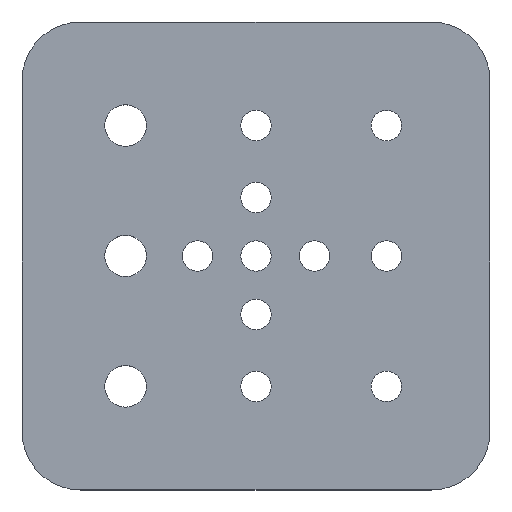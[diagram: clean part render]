
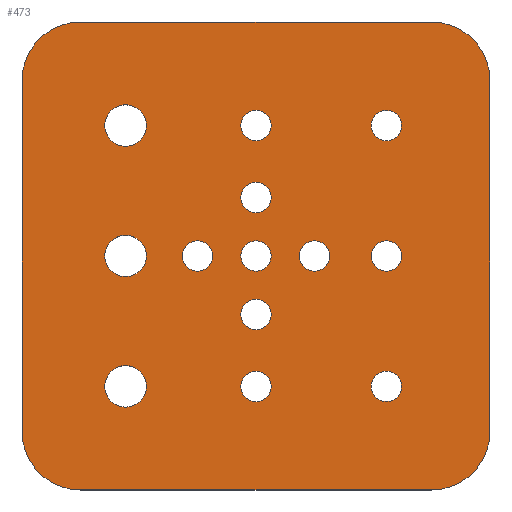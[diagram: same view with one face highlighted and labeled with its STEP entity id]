
A CAD part, top view. The second image highlights one B-rep face of the part: STEP entity #473.
In plain terms, the highlighted planar face has unit normal (0, 0, 1).
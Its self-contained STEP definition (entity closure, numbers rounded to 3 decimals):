
#28=FACE_BOUND('',#98,.T.);
#29=FACE_BOUND('',#99,.T.);
#30=FACE_BOUND('',#100,.T.);
#31=FACE_BOUND('',#101,.T.);
#32=FACE_BOUND('',#102,.T.);
#33=FACE_BOUND('',#103,.T.);
#34=FACE_BOUND('',#104,.T.);
#35=FACE_BOUND('',#105,.T.);
#36=FACE_BOUND('',#106,.T.);
#37=FACE_BOUND('',#107,.T.);
#38=FACE_BOUND('',#108,.T.);
#39=FACE_BOUND('',#109,.T.);
#40=FACE_BOUND('',#110,.T.);
#42=PLANE('',#540);
#61=FACE_OUTER_BOUND('',#97,.T.);
#97=EDGE_LOOP('',(#389,#390,#391,#392,#393,#394,#395,#396));
#98=EDGE_LOOP('',(#397));
#99=EDGE_LOOP('',(#398));
#100=EDGE_LOOP('',(#399));
#101=EDGE_LOOP('',(#400));
#102=EDGE_LOOP('',(#401));
#103=EDGE_LOOP('',(#402));
#104=EDGE_LOOP('',(#403));
#105=EDGE_LOOP('',(#404));
#106=EDGE_LOOP('',(#405));
#107=EDGE_LOOP('',(#406));
#108=EDGE_LOOP('',(#407));
#109=EDGE_LOOP('',(#408));
#110=EDGE_LOOP('',(#409));
#136=LINE('',#799,#165);
#137=LINE('',#803,#166);
#138=LINE('',#807,#167);
#139=LINE('',#810,#168);
#165=VECTOR('',#664,1000.);
#166=VECTOR('',#667,1000.);
#167=VECTOR('',#670,1000.);
#168=VECTOR('',#673,1000.);
#178=CIRCLE('',#498,2.6);
#180=CIRCLE('',#501,2.6);
#182=CIRCLE('',#504,2.6);
#184=CIRCLE('',#507,2.6);
#186=CIRCLE('',#510,2.6);
#188=CIRCLE('',#513,3.55);
#190=CIRCLE('',#516,3.55);
#192=CIRCLE('',#519,3.55);
#194=CIRCLE('',#522,2.6);
#196=CIRCLE('',#525,2.6);
#198=CIRCLE('',#528,2.6);
#200=CIRCLE('',#531,2.6);
#202=CIRCLE('',#534,2.6);
#207=CIRCLE('',#541,10.);
#208=CIRCLE('',#542,10.);
#209=CIRCLE('',#543,10.);
#210=CIRCLE('',#544,10.);
#212=VERTEX_POINT('',#702);
#214=VERTEX_POINT('',#708);
#216=VERTEX_POINT('',#714);
#218=VERTEX_POINT('',#720);
#220=VERTEX_POINT('',#726);
#222=VERTEX_POINT('',#732);
#224=VERTEX_POINT('',#738);
#226=VERTEX_POINT('',#744);
#228=VERTEX_POINT('',#750);
#230=VERTEX_POINT('',#756);
#232=VERTEX_POINT('',#762);
#234=VERTEX_POINT('',#768);
#236=VERTEX_POINT('',#774);
#245=VERTEX_POINT('',#795);
#246=VERTEX_POINT('',#796);
#247=VERTEX_POINT('',#798);
#248=VERTEX_POINT('',#800);
#249=VERTEX_POINT('',#802);
#250=VERTEX_POINT('',#804);
#251=VERTEX_POINT('',#806);
#252=VERTEX_POINT('',#808);
#255=EDGE_CURVE('',#212,#212,#178,.T.);
#258=EDGE_CURVE('',#214,#214,#180,.T.);
#261=EDGE_CURVE('',#216,#216,#182,.T.);
#264=EDGE_CURVE('',#218,#218,#184,.T.);
#267=EDGE_CURVE('',#220,#220,#186,.T.);
#270=EDGE_CURVE('',#222,#222,#188,.T.);
#273=EDGE_CURVE('',#224,#224,#190,.T.);
#276=EDGE_CURVE('',#226,#226,#192,.T.);
#279=EDGE_CURVE('',#228,#228,#194,.T.);
#282=EDGE_CURVE('',#230,#230,#196,.T.);
#285=EDGE_CURVE('',#232,#232,#198,.T.);
#288=EDGE_CURVE('',#234,#234,#200,.T.);
#291=EDGE_CURVE('',#236,#236,#202,.T.);
#300=EDGE_CURVE('',#245,#246,#207,.T.);
#301=EDGE_CURVE('',#247,#245,#136,.T.);
#302=EDGE_CURVE('',#248,#247,#208,.T.);
#303=EDGE_CURVE('',#249,#248,#137,.T.);
#304=EDGE_CURVE('',#250,#249,#209,.T.);
#305=EDGE_CURVE('',#251,#250,#138,.T.);
#306=EDGE_CURVE('',#252,#251,#210,.T.);
#307=EDGE_CURVE('',#246,#252,#139,.T.);
#389=ORIENTED_EDGE('',*,*,#300,.F.);
#390=ORIENTED_EDGE('',*,*,#301,.F.);
#391=ORIENTED_EDGE('',*,*,#302,.F.);
#392=ORIENTED_EDGE('',*,*,#303,.F.);
#393=ORIENTED_EDGE('',*,*,#304,.F.);
#394=ORIENTED_EDGE('',*,*,#305,.F.);
#395=ORIENTED_EDGE('',*,*,#306,.F.);
#396=ORIENTED_EDGE('',*,*,#307,.F.);
#397=ORIENTED_EDGE('',*,*,#291,.T.);
#398=ORIENTED_EDGE('',*,*,#285,.T.);
#399=ORIENTED_EDGE('',*,*,#279,.T.);
#400=ORIENTED_EDGE('',*,*,#273,.T.);
#401=ORIENTED_EDGE('',*,*,#267,.T.);
#402=ORIENTED_EDGE('',*,*,#261,.T.);
#403=ORIENTED_EDGE('',*,*,#255,.T.);
#404=ORIENTED_EDGE('',*,*,#258,.T.);
#405=ORIENTED_EDGE('',*,*,#264,.T.);
#406=ORIENTED_EDGE('',*,*,#270,.T.);
#407=ORIENTED_EDGE('',*,*,#276,.T.);
#408=ORIENTED_EDGE('',*,*,#282,.T.);
#409=ORIENTED_EDGE('',*,*,#288,.T.);
#473=ADVANCED_FACE('',(#61,#28,#29,#30,#31,#32,#33,#34,#35,#36,#37,#38,
#39,#40),#42,.T.);
#498=AXIS2_PLACEMENT_3D('',#704,#560,#561);
#501=AXIS2_PLACEMENT_3D('',#710,#567,#568);
#504=AXIS2_PLACEMENT_3D('',#716,#574,#575);
#507=AXIS2_PLACEMENT_3D('',#722,#581,#582);
#510=AXIS2_PLACEMENT_3D('',#728,#588,#589);
#513=AXIS2_PLACEMENT_3D('',#734,#595,#596);
#516=AXIS2_PLACEMENT_3D('',#740,#602,#603);
#519=AXIS2_PLACEMENT_3D('',#746,#609,#610);
#522=AXIS2_PLACEMENT_3D('',#752,#616,#617);
#525=AXIS2_PLACEMENT_3D('',#758,#623,#624);
#528=AXIS2_PLACEMENT_3D('',#764,#630,#631);
#531=AXIS2_PLACEMENT_3D('',#770,#637,#638);
#534=AXIS2_PLACEMENT_3D('',#776,#644,#645);
#540=AXIS2_PLACEMENT_3D('',#794,#660,#661);
#541=AXIS2_PLACEMENT_3D('',#797,#662,#663);
#542=AXIS2_PLACEMENT_3D('',#801,#665,#666);
#543=AXIS2_PLACEMENT_3D('',#805,#668,#669);
#544=AXIS2_PLACEMENT_3D('',#809,#671,#672);
#560=DIRECTION('center_axis',(0.,0.,-1.));
#561=DIRECTION('ref_axis',(0.,-1.,0.));
#567=DIRECTION('center_axis',(0.,0.,-1.));
#568=DIRECTION('ref_axis',(0.,1.,0.));
#574=DIRECTION('center_axis',(0.,0.,-1.));
#575=DIRECTION('ref_axis',(0.,1.,0.));
#581=DIRECTION('center_axis',(0.,0.,-1.));
#582=DIRECTION('ref_axis',(0.,-1.,0.));
#588=DIRECTION('center_axis',(0.,0.,-1.));
#589=DIRECTION('ref_axis',(0.,1.,0.));
#595=DIRECTION('center_axis',(0.,0.,-1.));
#596=DIRECTION('ref_axis',(0.,-1.,0.));
#602=DIRECTION('center_axis',(0.,0.,-1.));
#603=DIRECTION('ref_axis',(0.,1.,0.));
#609=DIRECTION('center_axis',(0.,0.,-1.));
#610=DIRECTION('ref_axis',(0.,1.,0.));
#616=DIRECTION('center_axis',(0.,0.,-1.));
#617=DIRECTION('ref_axis',(0.,1.,0.));
#623=DIRECTION('center_axis',(0.,0.,-1.));
#624=DIRECTION('ref_axis',(0.,-1.,0.));
#630=DIRECTION('center_axis',(0.,0.,-1.));
#631=DIRECTION('ref_axis',(0.,-1.,0.));
#637=DIRECTION('center_axis',(0.,0.,-1.));
#638=DIRECTION('ref_axis',(0.,1.,0.));
#644=DIRECTION('center_axis',(0.,0.,-1.));
#645=DIRECTION('ref_axis',(0.,1.,0.));
#660=DIRECTION('center_axis',(0.,0.,1.));
#661=DIRECTION('ref_axis',(0.,-1.,0.));
#662=DIRECTION('center_axis',(0.,0.,-1.));
#663=DIRECTION('ref_axis',(0.,-1.,0.));
#664=DIRECTION('',(0.,1.,0.));
#665=DIRECTION('center_axis',(0.,0.,-1.));
#666=DIRECTION('ref_axis',(0.,1.,0.));
#667=DIRECTION('',(-1.,0.,0.));
#668=DIRECTION('center_axis',(0.,0.,-1.));
#669=DIRECTION('ref_axis',(0.,1.,0.));
#670=DIRECTION('',(0.,-1.,0.));
#671=DIRECTION('center_axis',(0.,0.,-1.));
#672=DIRECTION('ref_axis',(0.,1.,0.));
#673=DIRECTION('',(1.,0.,0.));
#702=CARTESIAN_POINT('',(22.3,26.4,1.5));
#704=CARTESIAN_POINT('Origin',(22.3,23.8,1.5));
#708=CARTESIAN_POINT('',(22.3,4.1,1.5));
#710=CARTESIAN_POINT('Origin',(22.3,1.5,1.5));
#714=CARTESIAN_POINT('',(22.3,-18.2,1.5));
#716=CARTESIAN_POINT('Origin',(22.3,-20.8,1.5));
#720=CARTESIAN_POINT('',(0.,26.4,1.5));
#722=CARTESIAN_POINT('Origin',(0.,23.8,1.5));
#726=CARTESIAN_POINT('',(0.,-18.2,1.5));
#728=CARTESIAN_POINT('Origin',(0.,-20.8,1.5));
#732=CARTESIAN_POINT('',(-22.3,27.35,1.5));
#734=CARTESIAN_POINT('Origin',(-22.3,23.8,1.5));
#738=CARTESIAN_POINT('',(-22.3,5.05,1.5));
#740=CARTESIAN_POINT('Origin',(-22.3,1.5,1.5));
#744=CARTESIAN_POINT('',(-22.3,-17.25,1.5));
#746=CARTESIAN_POINT('Origin',(-22.3,-20.8,1.5));
#750=CARTESIAN_POINT('',(0.,-5.9,1.5));
#752=CARTESIAN_POINT('Origin',(0.,-8.5,
1.5));
#756=CARTESIAN_POINT('',(10.,4.1,1.5));
#758=CARTESIAN_POINT('Origin',(10.,1.5,1.5));
#762=CARTESIAN_POINT('',(-10.,4.1,1.5));
#764=CARTESIAN_POINT('Origin',(-10.,1.5,1.5));
#768=CARTESIAN_POINT('',(0.,14.1,1.5));
#770=CARTESIAN_POINT('Origin',(0.,11.5,1.5));
#774=CARTESIAN_POINT('',(0.,4.1,1.5));
#776=CARTESIAN_POINT('Origin',(0.,1.5,1.5));
#794=CARTESIAN_POINT('Origin',(-30.,31.5,1.5));
#795=CARTESIAN_POINT('',(-40.,31.5,1.5));
#796=CARTESIAN_POINT('',(-30.,41.5,1.5));
#797=CARTESIAN_POINT('Origin',(-30.,31.5,1.5));
#798=CARTESIAN_POINT('',(-40.,-28.5,1.5));
#799=CARTESIAN_POINT('',(-40.,31.5,1.5));
#800=CARTESIAN_POINT('',(-30.,-38.5,1.5));
#801=CARTESIAN_POINT('Origin',(-30.,-28.5,1.5));
#802=CARTESIAN_POINT('',(30.,-38.5,1.5));
#803=CARTESIAN_POINT('',(30.,-38.5,1.5));
#804=CARTESIAN_POINT('',(40.,-28.5,1.5));
#805=CARTESIAN_POINT('Origin',(30.,-28.5,1.5));
#806=CARTESIAN_POINT('',(40.,31.5,1.5));
#807=CARTESIAN_POINT('',(40.,31.5,1.5));
#808=CARTESIAN_POINT('',(30.,41.5,1.5));
#809=CARTESIAN_POINT('Origin',(30.,31.5,1.5));
#810=CARTESIAN_POINT('',(30.,41.5,1.5));
